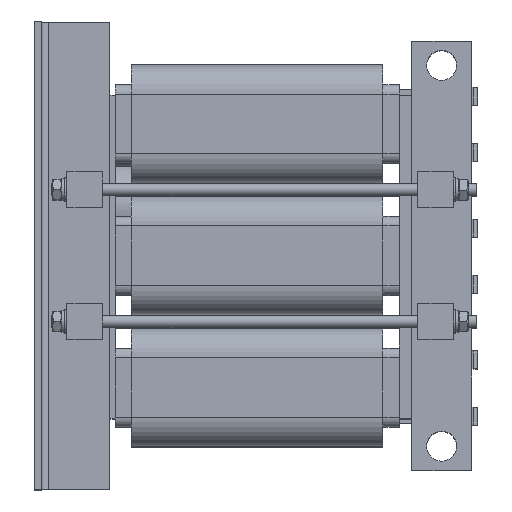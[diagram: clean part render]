
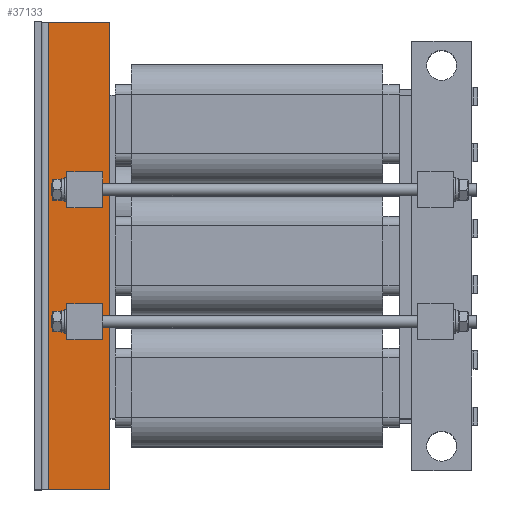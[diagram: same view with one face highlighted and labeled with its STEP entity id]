
A CAD part, left-side view. The second image highlights one B-rep face of the part: STEP entity #37133.
In plain terms, the highlighted planar face has unit normal (-1, 0, 0.004).
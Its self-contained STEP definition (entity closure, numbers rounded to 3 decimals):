
#965=FACE_BOUND('',#4738,.T.);
#966=FACE_BOUND('',#4739,.T.);
#2451=FACE_OUTER_BOUND('',#4737,.T.);
#4737=EDGE_LOOP('',(#25455,#25456,#25457,#25458));
#4738=EDGE_LOOP('',(#25459,#25460,#25461,#25462));
#4739=EDGE_LOOP('',(#25463,#25464,#25465,#25466));
#8725=LINE('',#54648,#12102);
#8731=LINE('',#54662,#12108);
#8735=LINE('',#54668,#12112);
#8737=LINE('',#54676,#12114);
#8738=LINE('',#54679,#12115);
#8739=LINE('',#54681,#12116);
#8740=LINE('',#54683,#12117);
#8741=LINE('',#54684,#12118);
#8742=LINE('',#54687,#12119);
#8743=LINE('',#54689,#12120);
#8744=LINE('',#54691,#12121);
#8745=LINE('',#54692,#12122);
#12102=VECTOR('',#44508,10.);
#12108=VECTOR('',#44522,10.);
#12112=VECTOR('',#44528,8.64);
#12114=VECTOR('',#44540,8.64);
#12115=VECTOR('',#44541,10.);
#12116=VECTOR('',#44542,10.);
#12117=VECTOR('',#44543,10.);
#12118=VECTOR('',#44544,10.);
#12119=VECTOR('',#44545,10.);
#12120=VECTOR('',#44546,10.);
#12121=VECTOR('',#44547,10.);
#12122=VECTOR('',#44548,10.);
#15552=VERTEX_POINT('',#54646);
#15553=VERTEX_POINT('',#54647);
#15556=VERTEX_POINT('',#54659);
#15557=VERTEX_POINT('',#54661);
#15560=VERTEX_POINT('',#54677);
#15561=VERTEX_POINT('',#54678);
#15562=VERTEX_POINT('',#54680);
#15563=VERTEX_POINT('',#54682);
#15564=VERTEX_POINT('',#54685);
#15565=VERTEX_POINT('',#54686);
#15566=VERTEX_POINT('',#54688);
#15567=VERTEX_POINT('',#54690);
#19323=EDGE_CURVE('',#15552,#15553,#8725,.T.);
#19331=EDGE_CURVE('',#15556,#15557,#8731,.T.);
#19335=EDGE_CURVE('',#15556,#15553,#8735,.T.);
#19339=EDGE_CURVE('',#15557,#15552,#8737,.T.);
#19340=EDGE_CURVE('',#15560,#15561,#8738,.T.);
#19341=EDGE_CURVE('',#15561,#15562,#8739,.T.);
#19342=EDGE_CURVE('',#15562,#15563,#8740,.T.);
#19343=EDGE_CURVE('',#15563,#15560,#8741,.T.);
#19344=EDGE_CURVE('',#15564,#15565,#8742,.T.);
#19345=EDGE_CURVE('',#15565,#15566,#8743,.T.);
#19346=EDGE_CURVE('',#15566,#15567,#8744,.T.);
#19347=EDGE_CURVE('',#15567,#15564,#8745,.T.);
#25455=ORIENTED_EDGE('',*,*,#19323,.F.);
#25456=ORIENTED_EDGE('',*,*,#19339,.F.);
#25457=ORIENTED_EDGE('',*,*,#19331,.F.);
#25458=ORIENTED_EDGE('',*,*,#19335,.T.);
#25459=ORIENTED_EDGE('',*,*,#19340,.T.);
#25460=ORIENTED_EDGE('',*,*,#19341,.T.);
#25461=ORIENTED_EDGE('',*,*,#19342,.T.);
#25462=ORIENTED_EDGE('',*,*,#19343,.T.);
#25463=ORIENTED_EDGE('',*,*,#19344,.T.);
#25464=ORIENTED_EDGE('',*,*,#19345,.T.);
#25465=ORIENTED_EDGE('',*,*,#19346,.T.);
#25466=ORIENTED_EDGE('',*,*,#19347,.T.);
#33507=PLANE('',#39587);
#37133=ADVANCED_FACE('',(#2451,#965,#966),#33507,.F.);
#39587=AXIS2_PLACEMENT_3D('',#54675,#44538,#44539);
#44508=DIRECTION('',(0.004,0.,1.));
#44522=DIRECTION('',(-0.004,0.,-1.));
#44528=DIRECTION('',(0.,1.,0.));
#44538=DIRECTION('center_axis',(1.,0.,
-0.004));
#44539=DIRECTION('ref_axis',(0.004,0.,1.));
#44540=DIRECTION('',(0.,1.,0.));
#44541=DIRECTION('',(-0.004,0.,-1.));
#44542=DIRECTION('',(0.,1.,0.));
#44543=DIRECTION('',(0.004,0.,1.));
#44544=DIRECTION('',(0.,-1.,0.));
#44545=DIRECTION('',(0.,-1.,0.));
#44546=DIRECTION('',(-0.004,0.,-1.));
#44547=DIRECTION('',(0.,1.,0.));
#44548=DIRECTION('',(0.004,0.,1.));
#54646=CARTESIAN_POINT('',(319.045,101.121,-630.264));
#54647=CARTESIAN_POINT('',(320.469,101.121,-240.266));
#54648=CARTESIAN_POINT('',(319.757,101.121,-435.265));
#54659=CARTESIAN_POINT('',(320.469,50.121,-240.266));
#54661=CARTESIAN_POINT('',(319.045,50.121,-630.264));
#54662=CARTESIAN_POINT('',(320.469,50.121,-240.266));
#54668=CARTESIAN_POINT('',(320.469,128.264,-240.266));
#54675=CARTESIAN_POINT('Origin',(319.757,82.407,-435.265));
#54676=CARTESIAN_POINT('',(319.045,128.264,-630.264));
#54677=CARTESIAN_POINT('',(319.611,56.121,-475.265));
#54678=CARTESIAN_POINT('',(319.502,56.121,-505.265));
#54679=CARTESIAN_POINT('',(319.657,56.121,-462.765));
#54680=CARTESIAN_POINT('',(319.502,86.121,-505.265));
#54681=CARTESIAN_POINT('',(319.502,84.264,-505.265));
#54682=CARTESIAN_POINT('',(319.611,86.121,-475.265));
#54683=CARTESIAN_POINT('',(319.684,86.121,-455.265));
#54684=CARTESIAN_POINT('',(319.611,69.264,-475.265));
#54685=CARTESIAN_POINT('',(320.013,86.121,-365.265));
#54686=CARTESIAN_POINT('',(320.013,56.121,-365.265));
#54687=CARTESIAN_POINT('',(320.013,69.264,-365.265));
#54688=CARTESIAN_POINT('',(319.903,56.121,-395.265));
#54689=CARTESIAN_POINT('',(319.83,56.121,-415.265));
#54690=CARTESIAN_POINT('',(319.903,86.121,-395.265));
#54691=CARTESIAN_POINT('',(319.903,84.264,-395.265));
#54692=CARTESIAN_POINT('',(319.885,86.121,-400.265));
